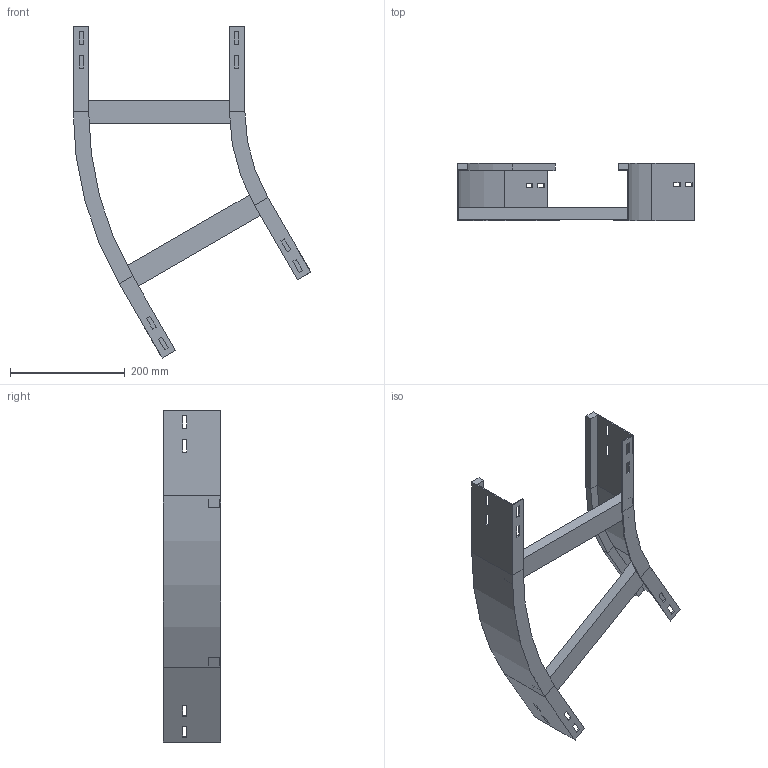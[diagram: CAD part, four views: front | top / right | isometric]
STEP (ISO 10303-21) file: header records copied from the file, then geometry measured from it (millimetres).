
FILE_DESCRIPTION (( 'STEP AP214' ), '1' );
FILE_NAME ('A2_12B3D300.step', '2025-02-21T15:07:09', ( '' ), ( '' ), 'SwSTEP 2.0', 'SolidWorks 2023', '' );
FILE_SCHEMA (( 'AUTOMOTIVE_DESIGN' ));
Length unit declared in the file: millimetre
Products named in the file (4): A2_12B3D300; A2_LONGH.ESTERNO 30°_H100_R300+300; A2_LONGH.INTERNO 30°_H100_R300; TRAVERSINO_300
Assembly tree (4 placements, depth 2):
  A2_12B3D300
    A2_LONGH.INTERNO 30°_H100_R300
    A2_LONGH.ESTERNO 30°_H100_R300+300
    TRAVERSINO_300  x2
Bounding box: 415.19 x 100 x 579.9 mm (x, y, z)
Volume: 948079.6 mm3; surface area: 379942.3 mm2
Topology: 4 solids, 4 shells, 128 faces, 328 edges, 208 vertices
Faces by surface type: plane 120, cylinder 8
Entity records: 3813 total; most frequent: CARTESIAN_POINT 645, ORIENTED_EDGE 632, DIRECTION 590, EDGE_CURVE 316, LINE 300, VECTOR 300, VERTEX_POINT 200, EDGE_LOOP 154
